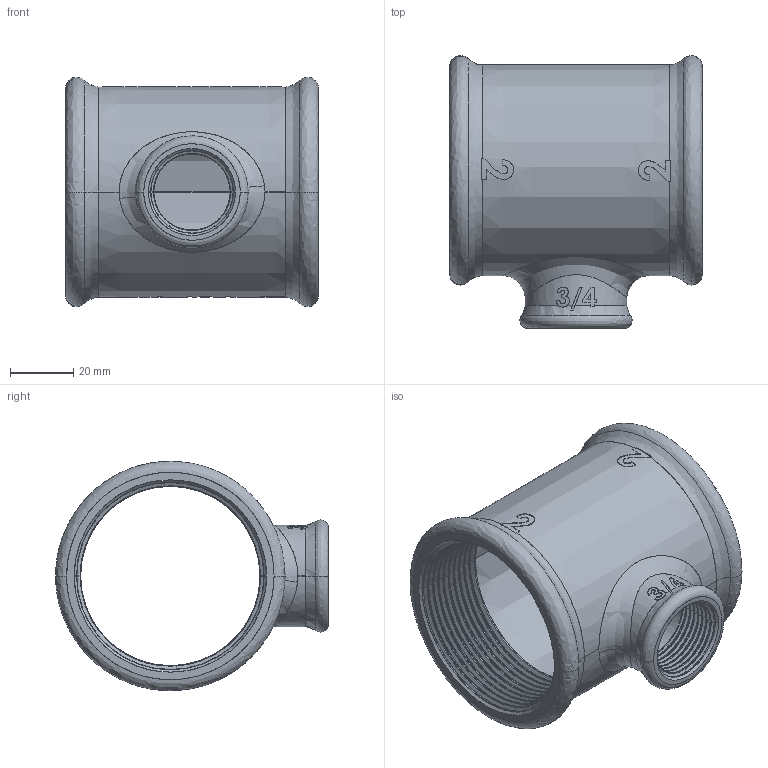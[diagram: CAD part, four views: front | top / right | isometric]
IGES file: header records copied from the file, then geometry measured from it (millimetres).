
Start section: SolidWorks IGES file using analytic representation for surfaces
Global section: file name: C:\Users\Joel Rosa\Desktop\Tubulação\12-45-XXX\12-45-044.IGS; native system: SolidWorks 2011; preprocessor: SolidWorks 2011; author: Joel Rosa; date: 121212.234155; units: millimetre
Bounding box: 80 x 86.3 x 72.58 mm (x, y, z)
Surface area: 43278.6 mm2 (no closed solid volume)
Topology: 0 solids, 0 shells, 460 faces, 4586 edges, 4586 vertices
Faces by surface type: bspline 315, revolution 145
